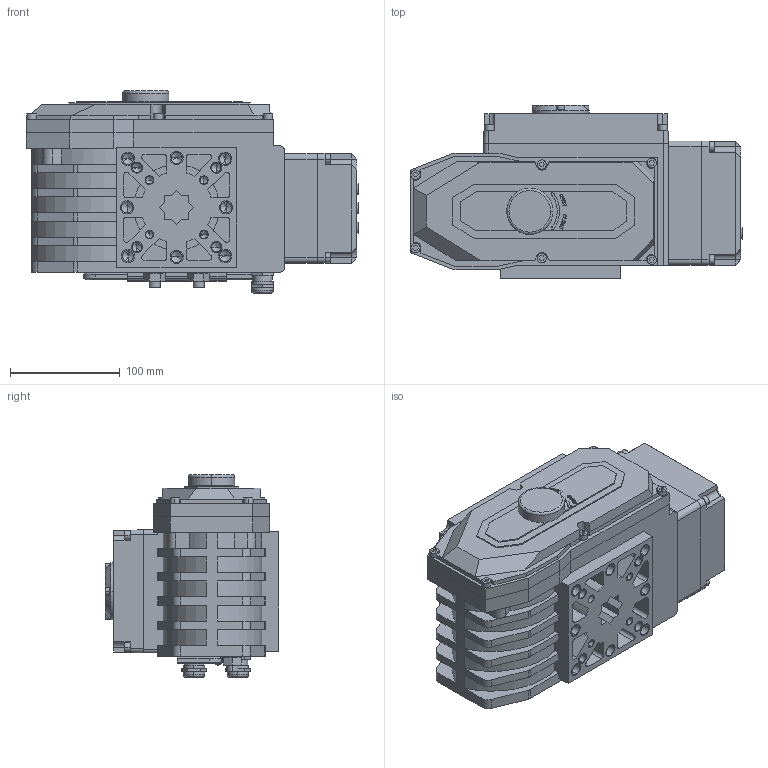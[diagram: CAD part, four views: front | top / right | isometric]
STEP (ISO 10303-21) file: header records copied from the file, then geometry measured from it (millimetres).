
FILE_DESCRIPTION((''),'2;1');
FILE_NAME('ELECTROPRIVOD_WITH_DISPLAY_ASM','2024-09-01T',('AMD'),(''),'PRO/ENGINEER BY PARAMETRIC TECHNOLOGY CORPORATION, 2008020','PRO/ENGINEER BY PARAMETRIC TECHNOLOGY CORPORATION, 2008020','');
FILE_SCHEMA(('CONFIG_CONTROL_DESIGN'));
Length unit declared in the file: millimetre
Products named in the file (13): DET_1; V-11738-M5; V-11738-M4; DET_2; KREPLENIE; KLUCH; DET_3; G-5915-M10; ELECTROPRIVOD_ASM; DET_4; DET_5; DISPLAY_ASM; ELECTROPRIVOD_WITH_DISPLAY_ASM
Assembly tree (29 placements, depth 3):
  ELECTROPRIVOD_WITH_DISPLAY_ASM
    ELECTROPRIVOD_ASM
      DET_1
      V-11738-M5  x10
      V-11738-M4  x4
      DET_2
      KREPLENIE
      KLUCH
      DET_3
      G-5915-M10  x2
    DISPLAY_ASM
      DET_4
      DET_5
      V-11738-M5  x4
Bounding box: 302 x 157.5 x 184 mm (x, y, z)
Volume: 4752840.9 mm3; surface area: 407338.1 mm2
Topology: 27 solids, 63 shells, 2219 faces, 5926 edges, 3922 vertices
Faces by surface type: plane 1530, cylinder 325, extrusion 300, cone 58, torus 6
Entity records: 61711 total; most frequent: CARTESIAN_POINT 13234, ORIENTED_EDGE 10404, DIRECTION 8847, EDGE_CURVE 5242, VECTOR 4373, LINE 4073, VERTEX_POINT 3478, AXIS2_PLACEMENT_3D 2237
